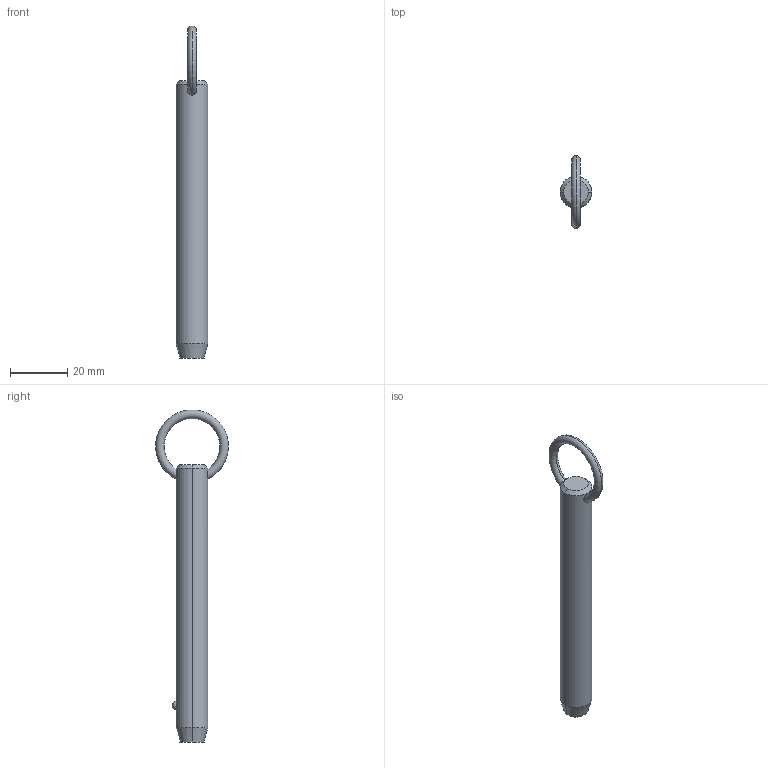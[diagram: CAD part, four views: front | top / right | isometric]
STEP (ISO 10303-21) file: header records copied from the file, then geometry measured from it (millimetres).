
FILE_DESCRIPTION (( 'STEP AP203' ), '1' );
FILE_NAME ('P1250.050-300.step', '2019-07-29T20:33:43', ( '' ), ( '' ), 'SwSTEP 2.0', 'SolidWorks 2017', '' );
FILE_SCHEMA (( 'CONFIG_CONTROL_DESIGN' ));
Length unit declared in the file: millimetre
Products named in the file (1): P1250.050-300
Bounding box: 11.1 x 25.32 x 115.75 mm (x, y, z)
Volume: 9649.9 mm3; surface area: 4028.2 mm2
Topology: 1 solids, 1 shells, 12 faces, 28 edges, 17 vertices
Faces by surface type: cone 4, torus 2, sphere 2, cylinder 2, plane 2
Entity records: 523 total; most frequent: CARTESIAN_POINT 190, DIRECTION 56, ORIENTED_EDGE 48, AXIS2_PLACEMENT_3D 25, EDGE_CURVE 24, EDGE_LOOP 15, VERTEX_POINT 15, FACE_OUTER_BOUND 12
